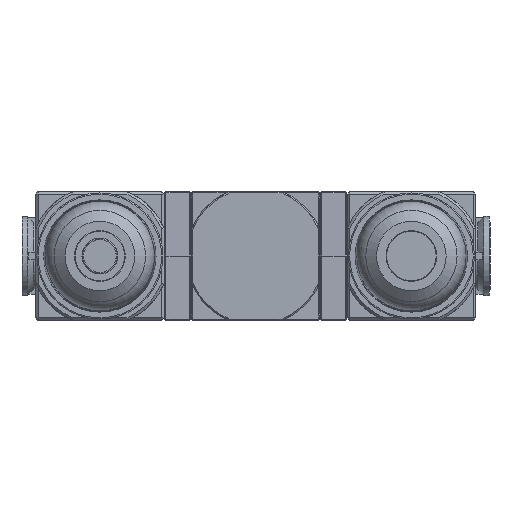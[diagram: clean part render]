
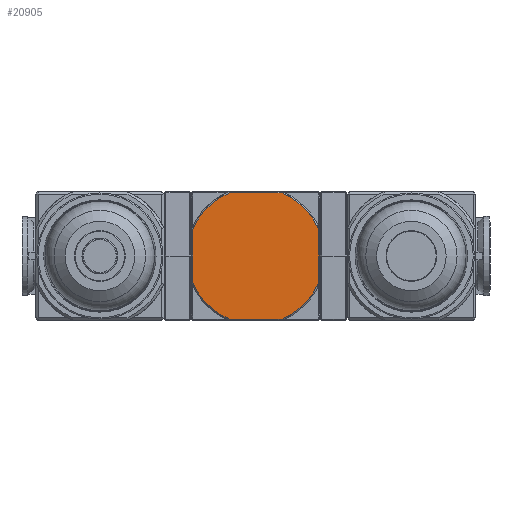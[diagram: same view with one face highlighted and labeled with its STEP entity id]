
A CAD part, front view. The second image highlights one B-rep face of the part: STEP entity #20905.
In plain terms, the highlighted planar face has unit normal (0, -1, 0).
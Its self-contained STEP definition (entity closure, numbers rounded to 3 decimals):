
#455 = CIRCLE ( 'NONE', #21891, 27.65 ) ;
#518 = EDGE_CURVE ( 'NONE', #31335, #15950, #20294, .T. ) ;
#1219 = LINE ( 'NONE', #46845, #16946 ) ;
#1743 = EDGE_CURVE ( 'NONE', #24165, #41027, #47172, .T. ) ;
#5984 = DIRECTION ( 'NONE',  ( 0., 0., -1. ) ) ;
#9532 = EDGE_CURVE ( 'NONE', #52026, #19500, #36529, .T. ) ;
#9568 = CIRCLE ( 'NONE', #20700, 27.65 ) ;
#10584 = AXIS2_PLACEMENT_3D ( 'NONE', #14501, #42733, #18554 ) ;
#10761 = VERTEX_POINT ( 'NONE', #19389 ) ;
#11055 = DIRECTION ( 'NONE',  ( 0., 0., -1. ) ) ;
#11129 = CARTESIAN_POINT ( 'NONE',  ( 0., -37.5, 0. ) ) ;
#11132 = ORIENTED_EDGE ( 'NONE', *, *, #36704, .T. ) ;
#11300 = CARTESIAN_POINT ( 'NONE',  ( 0., -37.5, 0. ) ) ;
#13855 = VECTOR ( 'NONE', #33967, 1000. ) ;
#14087 = CARTESIAN_POINT ( 'NONE',  ( 25.5, -37.5, -10.69 ) ) ;
#14166 = VECTOR ( 'NONE', #35617, 1000. ) ;
#14501 = CARTESIAN_POINT ( 'NONE',  ( 0., -37.5, 0. ) ) ;
#14963 = CARTESIAN_POINT ( 'NONE',  ( 10.69, -37.5, 25.5 ) ) ;
#15150 = DIRECTION ( 'NONE',  ( 0., 0., -1. ) ) ;
#15335 = DIRECTION ( 'NONE',  ( 0., 0., -1. ) ) ;
#15404 = CARTESIAN_POINT ( 'NONE',  ( -25.5, -37.5, -10.69 ) ) ;
#15474 = CARTESIAN_POINT ( 'NONE',  ( -26., -37.5, 25.5 ) ) ;
#15618 = VERTEX_POINT ( 'NONE', #28416 ) ;
#15950 = VERTEX_POINT ( 'NONE', #14963 ) ;
#16243 = CARTESIAN_POINT ( 'NONE',  ( 0., -37.5, 0. ) ) ;
#16266 = CARTESIAN_POINT ( 'NONE',  ( 25.5, -37.5, 10.69 ) ) ;
#16587 = FACE_OUTER_BOUND ( 'NONE', #20160, .T. ) ;
#16946 = VECTOR ( 'NONE', #22748, 1000. ) ;
#18554 = DIRECTION ( 'NONE',  ( 0., 0., -1. ) ) ;
#18760 = ORIENTED_EDGE ( 'NONE', *, *, #518, .T. ) ;
#19389 = CARTESIAN_POINT ( 'NONE',  ( -10.69, -37.5, -25.5 ) ) ;
#19500 = VERTEX_POINT ( 'NONE', #15404 ) ;
#20160 = EDGE_LOOP ( 'NONE', ( #36265, #34969, #18760, #11132, #22349, #25105, #28140, #40364 ) ) ;
#20294 = CIRCLE ( 'NONE', #10584, 27.65 ) ;
#20297 = DIRECTION ( 'NONE',  ( 0., 0., -1. ) ) ;
#20700 = AXIS2_PLACEMENT_3D ( 'NONE', #11300, #39515, #15335 ) ;
#20905 = ADVANCED_FACE ( 'NONE', ( #16587 ), #26937, .T. ) ;
#21891 = AXIS2_PLACEMENT_3D ( 'NONE', #16243, #44433, #20297 ) ;
#22067 = LINE ( 'NONE', #38093, #13855 ) ;
#22178 = CARTESIAN_POINT ( 'NONE',  ( -25.5, -37.5, -10.79 ) ) ;
#22349 = ORIENTED_EDGE ( 'NONE', *, *, #35018, .T. ) ;
#22748 = DIRECTION ( 'NONE',  ( 1., 0., 0. ) ) ;
#24165 = VERTEX_POINT ( 'NONE', #49904 ) ;
#24523 = VECTOR ( 'NONE', #5984, 1000. ) ;
#25105 = ORIENTED_EDGE ( 'NONE', *, *, #9532, .T. ) ;
#26937 = PLANE ( 'NONE',  #46346 ) ;
#28140 = ORIENTED_EDGE ( 'NONE', *, *, #47269, .T. ) ;
#28416 = CARTESIAN_POINT ( 'NONE',  ( -10.69, -37.5, 25.5 ) ) ;
#30979 = CARTESIAN_POINT ( 'NONE',  ( -26., -37.5, 26. ) ) ;
#31335 = VERTEX_POINT ( 'NONE', #16266 ) ;
#33967 = DIRECTION ( 'NONE',  ( 0., 0., 1. ) ) ;
#34969 = ORIENTED_EDGE ( 'NONE', *, *, #38677, .T. ) ;
#35018 = EDGE_CURVE ( 'NONE', #15618, #52026, #455, .T. ) ;
#35205 = DIRECTION ( 'NONE',  ( 0., -1., 0. ) ) ;
#35617 = DIRECTION ( 'NONE',  ( -1., 0., 0. ) ) ;
#36265 = ORIENTED_EDGE ( 'NONE', *, *, #1743, .T. ) ;
#36529 = LINE ( 'NONE', #22178, #24523 ) ;
#36704 = EDGE_CURVE ( 'NONE', #15950, #15618, #45024, .T. ) ;
#37439 = AXIS2_PLACEMENT_3D ( 'NONE', #11129, #39351, #15150 ) ;
#38093 = CARTESIAN_POINT ( 'NONE',  ( 25.5, -37.5, 10.79 ) ) ;
#38677 = EDGE_CURVE ( 'NONE', #41027, #31335, #22067, .T. ) ;
#39351 = DIRECTION ( 'NONE',  ( 0., -1., 0. ) ) ;
#39515 = DIRECTION ( 'NONE',  ( 0., -1., 0. ) ) ;
#40364 = ORIENTED_EDGE ( 'NONE', *, *, #41623, .T. ) ;
#41027 = VERTEX_POINT ( 'NONE', #14087 ) ;
#41623 = EDGE_CURVE ( 'NONE', #10761, #24165, #1219, .T. ) ;
#42733 = DIRECTION ( 'NONE',  ( 0., -1., 0. ) ) ;
#44433 = DIRECTION ( 'NONE',  ( 0., -1., 0. ) ) ;
#45024 = LINE ( 'NONE', #15474, #14166 ) ;
#46346 = AXIS2_PLACEMENT_3D ( 'NONE', #30979, #35205, #11055 ) ;
#46845 = CARTESIAN_POINT ( 'NONE',  ( -26., -37.5, -25.5 ) ) ;
#47172 = CIRCLE ( 'NONE', #37439, 27.65 ) ;
#47269 = EDGE_CURVE ( 'NONE', #19500, #10761, #9568, .T. ) ;
#49579 = CARTESIAN_POINT ( 'NONE',  ( -25.5, -37.5, 10.69 ) ) ;
#49904 = CARTESIAN_POINT ( 'NONE',  ( 10.69, -37.5, -25.5 ) ) ;
#52026 = VERTEX_POINT ( 'NONE', #49579 ) ;
